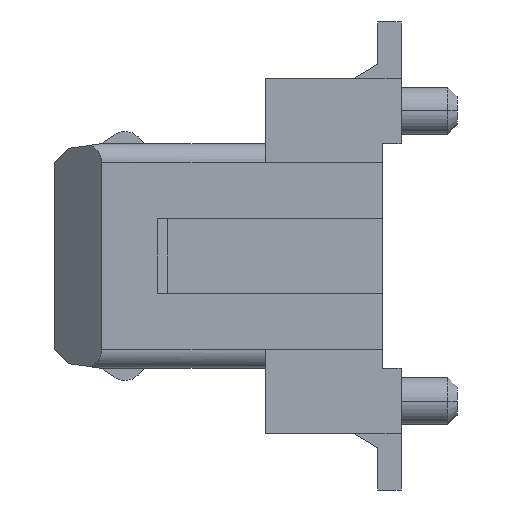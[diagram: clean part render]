
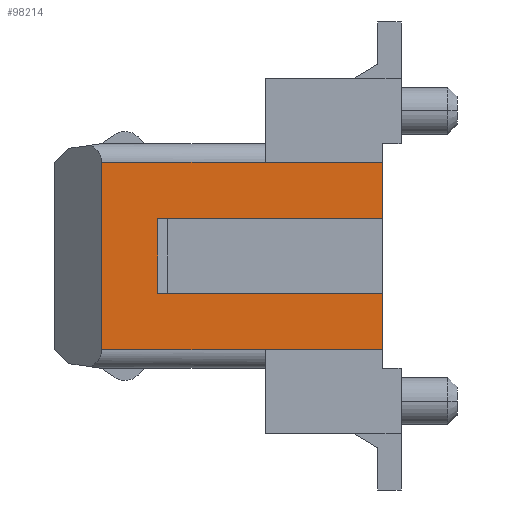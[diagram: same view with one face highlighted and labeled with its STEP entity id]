
A CAD part, left-side view. The second image highlights one B-rep face of the part: STEP entity #98214.
In plain terms, the highlighted planar face has unit normal (-1, 0, 0).
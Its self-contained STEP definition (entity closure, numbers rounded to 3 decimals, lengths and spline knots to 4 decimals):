
#1379=CARTESIAN_POINT('',(-15.75,3.2,1.));
#10157=DIRECTION('',(0.,0.,-1.));
#10158=VECTOR('',#10157,0.6);
#10159=CARTESIAN_POINT('',(-15.75,0.2,-0.4));
#10160=LINE('',#10159,#10158);
#10161=DIRECTION('',(0.,1.,0.));
#10162=VECTOR('',#10161,1.75);
#10163=CARTESIAN_POINT('',(-15.75,1.45,-1.));
#10164=LINE('',#10163,#10162);
#10165=DIRECTION('',(0.,0.,1.));
#10166=VECTOR('',#10165,2.);
#10167=CARTESIAN_POINT('',(-15.75,3.2,-1.));
#10168=LINE('',#10167,#10166);
#10169=DIRECTION('',(0.,-1.,0.));
#10170=VECTOR('',#10169,1.75);
#10171=CARTESIAN_POINT('',(-15.75,3.2,1.));
#10172=LINE('',#10171,#10170);
#10173=DIRECTION('',(0.,0.,-1.));
#10174=VECTOR('',#10173,0.6);
#10175=CARTESIAN_POINT('',(-15.75,0.2,1.));
#10176=LINE('',#10175,#10174);
#10177=DIRECTION('',(0.,0.,1.));
#10178=VECTOR('',#10177,0.8);
#10179=CARTESIAN_POINT('',(-15.75,2.6,-0.4));
#10180=LINE('',#10179,#10178);
#10185=DIRECTION('',(0.,1.,0.));
#10186=VECTOR('',#10185,2.4);
#10187=CARTESIAN_POINT('',(-15.75,0.2,-0.4));
#10188=LINE('',#10187,#10186);
#10205=DIRECTION('',(0.,-1.,0.));
#10206=VECTOR('',#10205,2.4);
#10207=CARTESIAN_POINT('',(-15.75,2.6,0.4));
#10208=LINE('',#10207,#10206);
#10225=DIRECTION('',(0.,-1.,0.));
#10226=VECTOR('',#10225,1.25);
#10227=CARTESIAN_POINT('',(-15.75,1.45,-1.));
#10228=LINE('',#10227,#10226);
#24446=DIRECTION('',(0.,1.,0.));
#24447=VECTOR('',#24446,1.25);
#24448=CARTESIAN_POINT('',(-15.75,0.2,1.));
#24449=LINE('',#24448,#24447);
#63235=CARTESIAN_POINT('',(-15.75,0.2,-0.4));
#63237=VERTEX_POINT('',#63235);
#63239=CARTESIAN_POINT('',(-15.75,0.2,1.));
#63241=VERTEX_POINT('',#63239);
#63982=CARTESIAN_POINT('',(-15.75,1.45,1.));
#63984=VERTEX_POINT('',#63982);
#64445=VERTEX_POINT('',#1379);
#64446=CARTESIAN_POINT('',(-15.75,3.2,-1.));
#64447=VERTEX_POINT('',#64446);
#64875=CARTESIAN_POINT('',(-15.75,1.45,-1.));
#64877=VERTEX_POINT('',#64875);
#67485=CARTESIAN_POINT('',(-15.75,2.6,-0.4));
#67486=CARTESIAN_POINT('',(-15.75,2.6,0.4));
#67487=VERTEX_POINT('',#67485);
#67488=VERTEX_POINT('',#67486);
#67489=CARTESIAN_POINT('',(-15.75,0.2,-1.));
#67490=VERTEX_POINT('',#67489);
#67491=CARTESIAN_POINT('',(-15.75,0.2,0.4));
#67492=VERTEX_POINT('',#67491);
#98192=CARTESIAN_POINT('',(-15.75,1.7,0.));
#98193=DIRECTION('',(1.,0.,0.));
#98194=DIRECTION('',(0.,-1.,0.));
#98195=AXIS2_PLACEMENT_3D('',#98192,#98193,#98194);
#98196=PLANE('',#98195);
#98198=ORIENTED_EDGE('',*,*,#98197,.F.);
#98200=ORIENTED_EDGE('',*,*,#98199,.F.);
#98201=ORIENTED_EDGE('',*,*,#83497,.T.);
#98203=ORIENTED_EDGE('',*,*,#98202,.F.);
#98204=ORIENTED_EDGE('',*,*,#98183,.T.);
#98205=ORIENTED_EDGE('',*,*,#85812,.T.);
#98206=ORIENTED_EDGE('',*,*,#85799,.T.);
#98208=ORIENTED_EDGE('',*,*,#98207,.F.);
#98209=ORIENTED_EDGE('',*,*,#83505,.T.);
#98211=ORIENTED_EDGE('',*,*,#98210,.F.);
#98212=EDGE_LOOP('',(#98198,#98200,#98201,#98203,#98204,#98205,#98206,#98208,
#98209,#98211));
#98213=FACE_OUTER_BOUND('',#98212,.F.);
#98214=ADVANCED_FACE('',(#98213),#98196,.F.);
#83497=EDGE_CURVE('',#63237,#67490,#10160,.T.);
#83505=EDGE_CURVE('',#63241,#67492,#10176,.T.);
#85799=EDGE_CURVE('',#64445,#63984,#10172,.T.);
#85812=EDGE_CURVE('',#64447,#64445,#10168,.T.);
#98183=EDGE_CURVE('',#64877,#64447,#10164,.T.);
#98197=EDGE_CURVE('',#67487,#67488,#10180,.T.);
#98199=EDGE_CURVE('',#63237,#67487,#10188,.T.);
#98202=EDGE_CURVE('',#64877,#67490,#10228,.T.);
#98207=EDGE_CURVE('',#63241,#63984,#24449,.T.);
#98210=EDGE_CURVE('',#67488,#67492,#10208,.T.);
